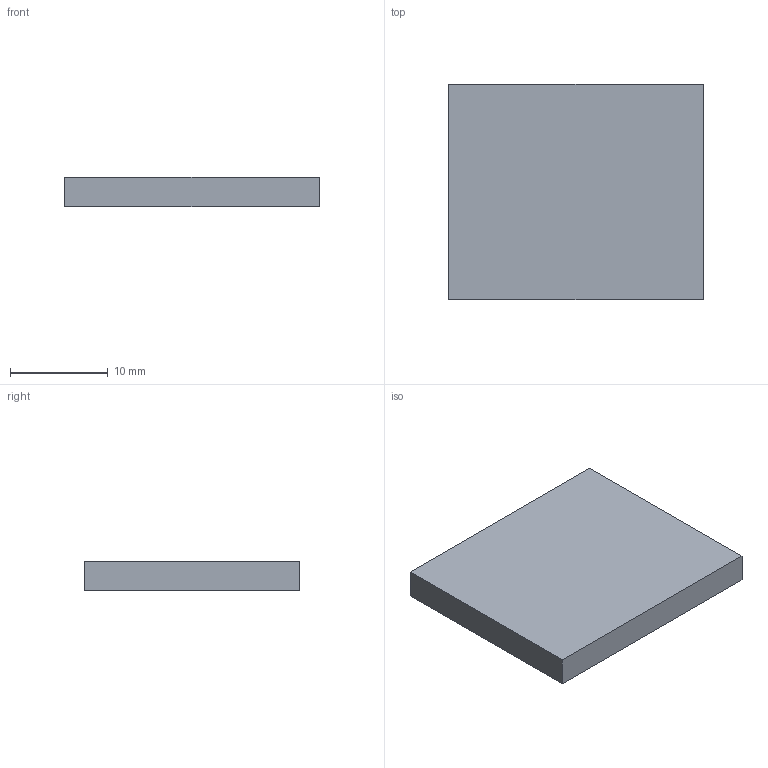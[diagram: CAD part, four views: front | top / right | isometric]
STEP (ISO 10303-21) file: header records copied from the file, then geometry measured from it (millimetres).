
FILE_DESCRIPTION(('Open CASCADE Model'),'2;1');
FILE_NAME('Open CASCADE Shape Model','2026-11-24T19:57:39',('Author'),( 'Open CASCADE'),'Open CASCADE STEP processor 7.8','Open CASCADE 7.8' ,'Unknown');
FILE_SCHEMA(('AUTOMOTIVE_DESIGN { 1 0 10303 214 1 1 1 1 }'));
Length unit declared in the file: millimetre
Products named in the file (1): Open CASCADE STEP translator 7.8 60
Bounding box: 26 x 22 x 3 mm (x, y, z)
Volume: 1716 mm3; surface area: 1432 mm2
Topology: 1 solids, 1 shells, 6 faces, 12 edges, 8 vertices
Faces by surface type: plane 6
Entity records: 322 total; most frequent: CARTESIAN_POINT 51, DIRECTION 50, LINE 36, VECTOR 36, ORIENTED_EDGE 24, PCURVE 24, DEFINITIONAL_REPRESENTATION 24, EDGE_CURVE 12
